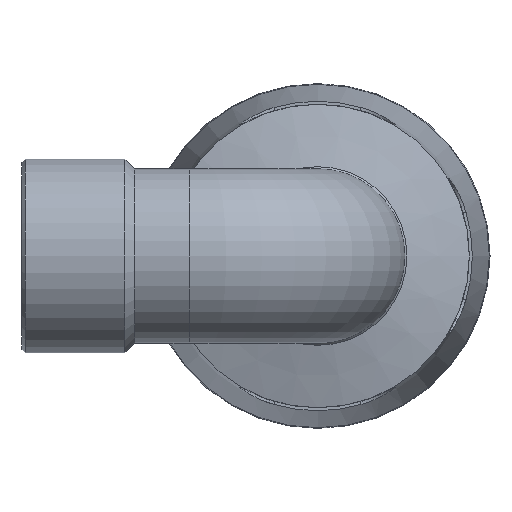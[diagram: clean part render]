
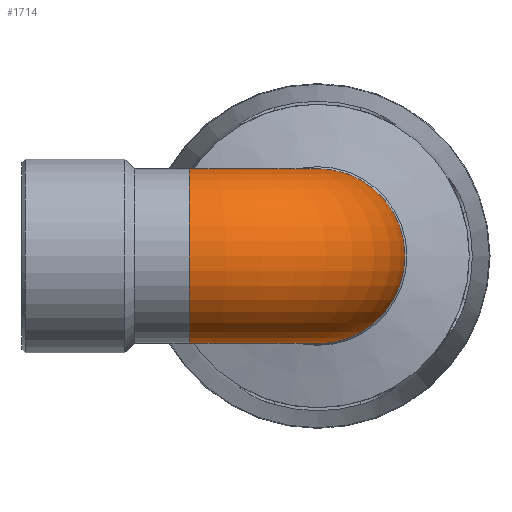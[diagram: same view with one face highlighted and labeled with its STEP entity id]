
A CAD part, left-side view. The second image highlights one B-rep face of the part: STEP entity #1714.
In plain terms, the highlighted toroidal (fillet/blend) face has major radius 26.072 mm and minor radius 17.72 mm.
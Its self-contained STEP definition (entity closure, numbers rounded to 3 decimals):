
#356=FACE_BOUND('',#509,.T.);
#384=FACE_OUTER_BOUND('',#508,.T.);
#508=EDGE_LOOP('',(#1160));
#509=EDGE_LOOP('',(#1161));
#615=CIRCLE('',#1814,17.72);
#621=CIRCLE('',#1824,17.72);
#710=VERTEX_POINT('',#2509);
#716=VERTEX_POINT('',#2525);
#869=EDGE_CURVE('',#710,#710,#615,.T.);
#875=EDGE_CURVE('',#716,#716,#621,.T.);
#1160=ORIENTED_EDGE('',*,*,#869,.F.);
#1161=ORIENTED_EDGE('',*,*,#875,.T.);
#1586=TOROIDAL_SURFACE('',#1868,26.072,17.72);
#1714=ADVANCED_FACE('',(#384,#356),#1586,.T.);
#1814=AXIS2_PLACEMENT_3D('',#2510,#2025,#2026);
#1824=AXIS2_PLACEMENT_3D('',#2526,#2045,#2046);
#1868=AXIS2_PLACEMENT_3D('',#2604,#2133,#2134);
#2025=DIRECTION('center_axis',(1.,0.,0.));
#2026=DIRECTION('ref_axis',(0.,-1.,0.));
#2045=DIRECTION('center_axis',(0.,-1.,0.));
#2046=DIRECTION('ref_axis',(-1.,0.,0.));
#2133=DIRECTION('center_axis',(0.,0.,1.));
#2134=DIRECTION('ref_axis',(1.,0.,0.));
#2509=CARTESIAN_POINT('',(26.072,17.72,0.));
#2510=CARTESIAN_POINT('Origin',(26.072,0.,0.));
#2525=CARTESIAN_POINT('',(17.72,26.072,0.));
#2526=CARTESIAN_POINT('Origin',(0.,26.072,0.));
#2604=CARTESIAN_POINT('Origin',(26.072,26.072,0.));
